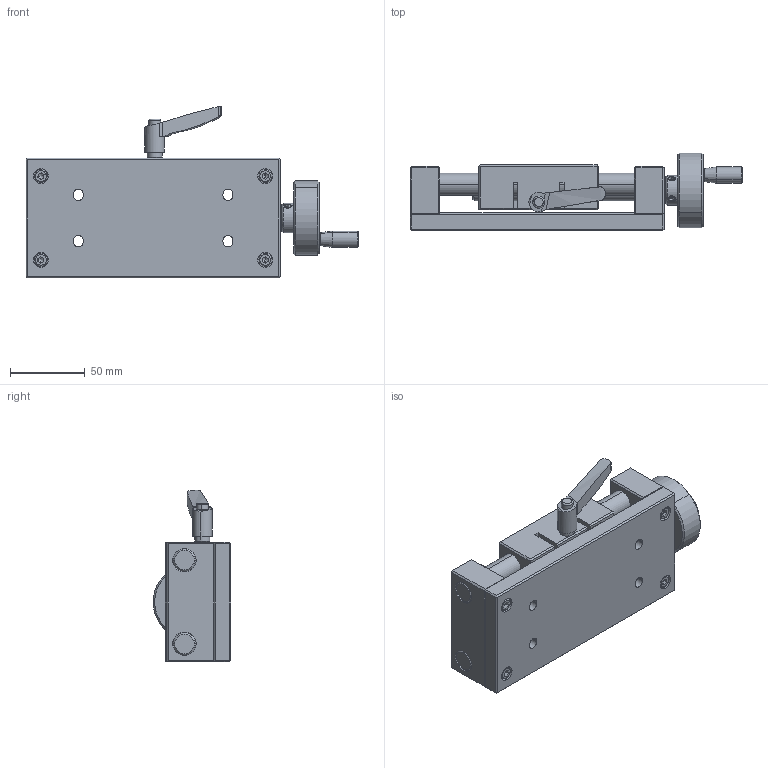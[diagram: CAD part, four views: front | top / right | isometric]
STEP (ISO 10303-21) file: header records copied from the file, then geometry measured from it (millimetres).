
FILE_DESCRIPTION (( 'STEP AP203' ), '1' );
FILE_NAME ('BKST50.STEP', '2024-02-28T02:41:16', ( 'China' ), ( 'Microsoft' ), 'SwSTEP 2.0', 'SolidWorks 2024', '' );
FILE_SCHEMA (( 'CONFIG_CONTROL_DESIGN' ));
Length unit declared in the file: millimetre
Products named in the file (1): BKST50
Bounding box: 222 x 51.91 x 114.77 mm (x, y, z)
Volume: 470379.2 mm3; surface area: 131050 mm2
Topology: 25 solids, 25 shells, 770 faces, 1857 edges, 1132 vertices
Faces by surface type: plane 372, cylinder 209, cone 169, torus 20
Entity records: 23260 total; most frequent: CARTESIAN_POINT 4936, DIRECTION 3973, ORIENTED_EDGE 3628, EDGE_CURVE 1814, AXIS2_PLACEMENT_3D 1443, VERTEX_POINT 1132, LINE 1087, VECTOR 1087
